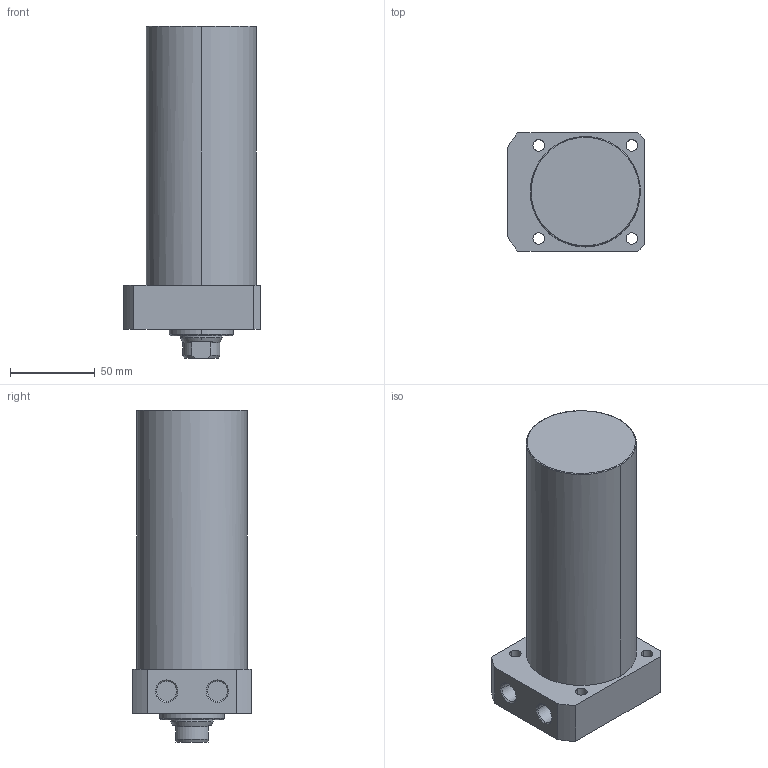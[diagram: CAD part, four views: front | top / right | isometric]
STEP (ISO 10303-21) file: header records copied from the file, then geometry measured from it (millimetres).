
FILE_DESCRIPTION((' '),'2;1');
FILE_NAME( 'TLLR-065CA-120.STEP.stp', '2025-10-24T16:34:54', (' '), ('--- Datakit www.datakit.com---'), ' Datakit CrossCadWare V2024.1 Dec 21 2023', 'Mastercam 2025', ' ');
FILE_SCHEMA(('AUTOMOTIVE_DESIGN { 1 0 10303 214 1 1 1 1 }'));
Length unit declared in the file: millimetre
Products named in the file (1): TLLR-065CA-120
Bounding box: 81 x 70 x 196 mm (x, y, z)
Volume: 651674 mm3; surface area: 55672.9 mm2
Topology: 1 solids, 1 shells, 63 faces, 179 edges, 124 vertices
Faces by surface type: cylinder 28, plane 19, cone 14, torus 2
Entity records: 2174 total; most frequent: DIRECTION 402, CARTESIAN_POINT 397, ORIENTED_EDGE 354, EDGE_CURVE 177, AXIS2_PLACEMENT_3D 169, VERTEX_POINT 124, CIRCLE 105, EDGE_LOOP 79
